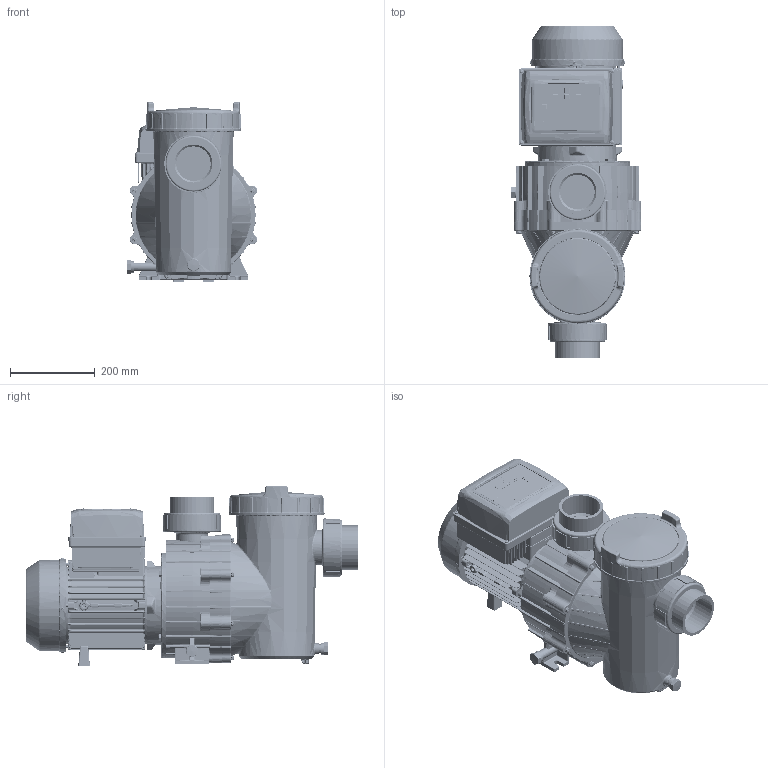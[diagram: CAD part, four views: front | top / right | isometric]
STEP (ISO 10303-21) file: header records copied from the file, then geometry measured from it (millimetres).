
FILE_DESCRIPTION(/* description */ ('CAx-IF Rec.Pracs.---Representation and Presentation of Product Manufacturing Information (PMI)---4.0---2014-10-13','CAx-IF Rec.Pracs.---3D Tessellated Geometry---0.4---2014-09-14','2;1'),/* implementation_level */ '2;1');
FILE_NAME(/* name */ 'e-SUPRA 550',/* time_stamp */ '2025-03-20T14:58:56+01:00',/* author */ ('R.BASAGAÃ‘A'),/* organization */ ('SACI'),/* preprocessor_version */ 'ST-DEVELOPER v18.1',/* originating_system */ 'Solid Edge',/* authorisation */ 'Unknown');
FILE_SCHEMA (('AP242_MANAGED_MODEL_BASED_3D_ENGINEERING_MIM_LF { 1 0 10303 442 1 1 4 }'));
Length unit declared in the file: millimetre
Products named in the file (2): e-SUPRA 550; e-SUPRA 550-
Assembly tree (1 placements, depth 2):
  e-SUPRA 550
    e-SUPRA 550-
Bounding box: 308.69 x 785.79 x 424.26 mm (x, y, z)
Surface area: 1741962.7 mm2 (no closed solid volume)
Topology: 0 solids, 1 shells, 7936 faces, 19754 edges, 11651 vertices
Faces by surface type: cylinder 2479, plane 2079, bspline 1296, torus 1218, cone 536, sphere 328
Full cylindrical faces by diameter (mm): 1.998 x3, 2.64 x4, 3 x3, 4 x16, 4.5 x4, 5 x1, 5.458 x8, 5.999 x12, 6.564 x1, 6.996 x12, 8 x1, 9.499 x4, 9.999 x8, 10.087 x4, 11.988 x8, 12.119 x4, 13.392 x1, 13.986 x4, 14.998 x2, 15.583 x3, 15.598 x1, 17.998 x1, 20.934 x2, 20.991 x1, 21.426 x4, 23.998 x8, 25.977 x1, 26.985 x6, 81.418 x2, 82.917 x1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
Entity records: 380297 total; most frequent: CARTESIAN_POINT 160529, ORIENTED_EDGE 37332, DIRECTION 28560, EDGE_CURVE 18666, AXIS2_PLACEMENT_3D 11519, VERTEX_POINT 11332, FACE_BOUND 8614, EDGE_LOOP 8592
